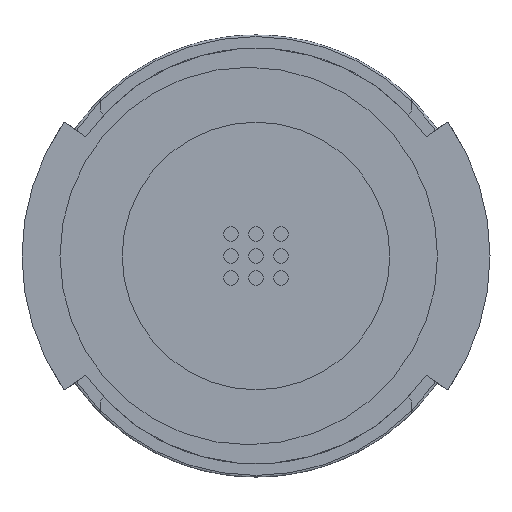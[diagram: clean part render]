
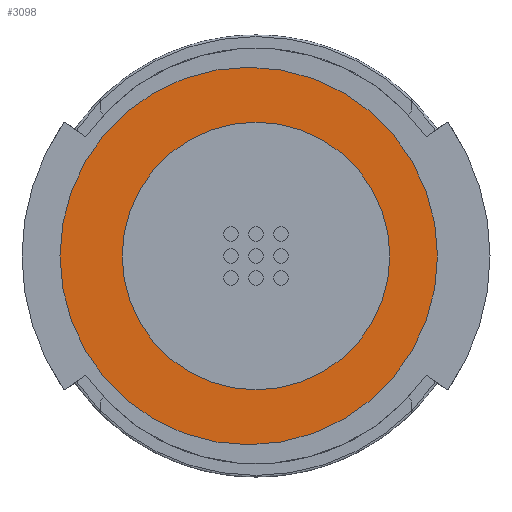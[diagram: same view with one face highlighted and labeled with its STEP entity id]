
A CAD part, front view. The second image highlights one B-rep face of the part: STEP entity #3098.
In plain terms, the highlighted free-form (B-spline) face has degree [1, 1] with [2, 2] control points.
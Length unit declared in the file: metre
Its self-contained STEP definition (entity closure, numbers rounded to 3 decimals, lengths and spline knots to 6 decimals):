
#459=B_SPLINE_SURFACE_WITH_KNOTS('',1,1,((#6090,#6091),(#6092,#6093)),
 .PLANE_SURF.,.F.,.F.,.F.,(2,2),(2,2),(0.042732,0.954562),
(0.043879,0.958058),.PIECEWISE_BEZIER_KNOTS.);
#1370=ORIENTED_EDGE('',*,*,#1488,.F.);
#1371=ORIENTED_EDGE('',*,*,#1893,.F.);
#1372=ORIENTED_EDGE('',*,*,#1894,.T.);
#1373=ORIENTED_EDGE('',*,*,#1484,.T.);
#1484=EDGE_CURVE('',#1950,#1951,#2246,.T.);
#1488=EDGE_CURVE('',#1954,#1955,#2248,.T.);
#1893=EDGE_CURVE('',#1955,#1954,#2405,.T.);
#1894=EDGE_CURVE('',#1951,#1950,#2406,.T.);
#1950=VERTEX_POINT('',#4115);
#1951=VERTEX_POINT('',#4116);
#1954=VERTEX_POINT('',#4133);
#1955=VERTEX_POINT('',#4134);
#2246=CIRCLE('',#3149,0.058634);
#2248=CIRCLE('',#3151,0.082703);
#2405=CIRCLE('',#3328,0.082703);
#2406=CIRCLE('',#3329,0.058634);
#2602=EDGE_LOOP('',(#1370,#1371));
#2603=EDGE_LOOP('',(#1372,#1373));
#2808=FACE_BOUND('',#2602,.T.);
#2809=FACE_BOUND('',#2603,.T.);
#3098=ADVANCED_FACE('',(#2808,#2809),#459,.T.);
#3149=AXIS2_PLACEMENT_3D('',#4114,#3387,#3388);
#3151=AXIS2_PLACEMENT_3D('',#4132,#3391,#3392);
#3328=AXIS2_PLACEMENT_3D('',#6079,#3901,#3902);
#3329=AXIS2_PLACEMENT_3D('',#6088,#3903,#3904);
#3387=DIRECTION('',(0.,1.,0.));
#3388=DIRECTION('',(1.,0.,0.));
#3391=DIRECTION('',(0.,1.,0.));
#3392=DIRECTION('',(1.,0.,0.));
#3901=DIRECTION('',(0.,1.,0.));
#3902=DIRECTION('',(1.,0.,0.));
#3903=DIRECTION('',(0.,1.,0.));
#3904=DIRECTION('',(1.,0.,0.));
#4114=CARTESIAN_POINT('',(0.,-0.012894,0.));
#4115=CARTESIAN_POINT('',(0.058634,-0.012894,0.));
#4116=CARTESIAN_POINT('',(-0.058634,-0.012894,0.));
#4132=CARTESIAN_POINT('',(-0.003175,-0.012894,0.));
#4133=CARTESIAN_POINT('',(-0.085878,-0.012894,0.));
#4134=CARTESIAN_POINT('',(0.079528,-0.012894,0.));
#6079=CARTESIAN_POINT('',(-0.003175,-0.012894,0.));
#6088=CARTESIAN_POINT('',(0.,-0.012894,0.));
#6090=CARTESIAN_POINT('',(-0.087372,-0.012894,-0.083986));
#6091=CARTESIAN_POINT('',(-0.087372,-0.012894,0.084342));
#6092=CARTESIAN_POINT('',(0.080523,-0.012894,-0.083986));
#6093=CARTESIAN_POINT('',(0.080523,-0.012894,0.084342));
